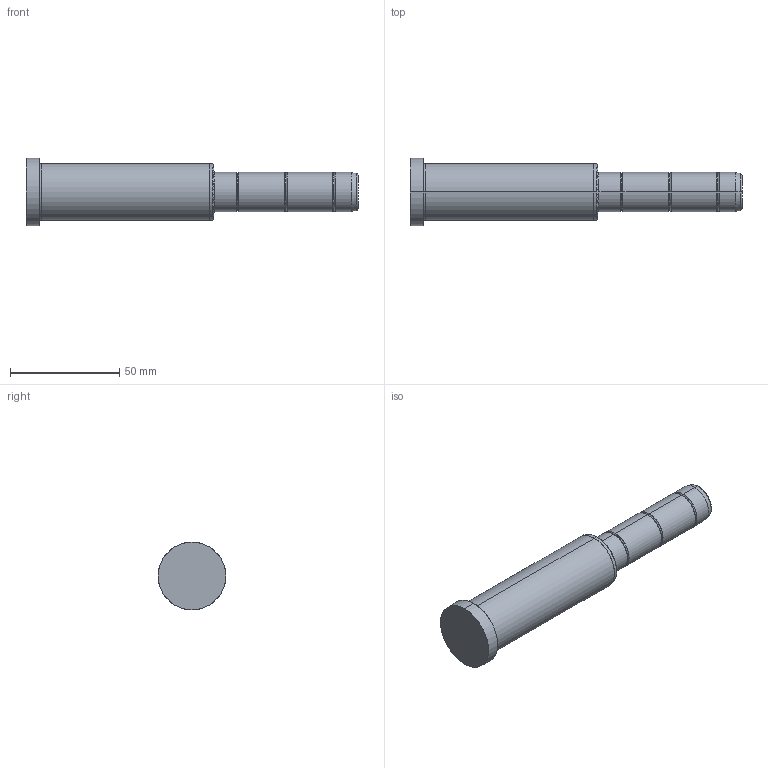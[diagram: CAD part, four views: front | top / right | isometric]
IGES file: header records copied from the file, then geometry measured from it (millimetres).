
Start section: SolidWorks IGES file using analytic representation for surfaces
Global section: file name: C:\Documents and Settings\kalite-mail\Desktop\IGS\D02\18\D02 - 18x86x66.IGS; native system: SolidWorks 2008; preprocessor: SolidWorks 2008; author: kalite-mail; date: 080616.155959; units: millimetre
Bounding box: 152 x 31 x 31 mm (x, y, z)
Surface area: 12361 mm2 (no closed solid volume)
Topology: 0 solids, 0 shells, 42 faces, 528 edges, 528 vertices
Faces by surface type: bspline 22, revolution 20
